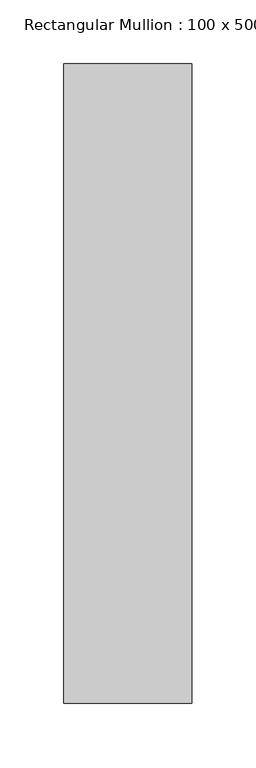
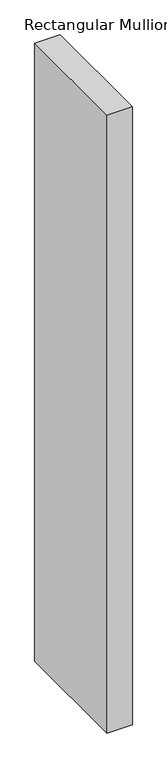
"""IFC4 building model written with IfcOpenShell, lengths in millimetres: member geometry, Rectangular Mullion : 100 x 500mm."""

import ifcopenshell
import ifcopenshell.guid

model = None  # the IFC model being written
_history = None  # IfcOwnerHistory: only IFC2X3 demands one
_inside = {}  # id of a spatial element -> (the spatial element, [elements in it])
_under = {}  # id of a project, library or spatial element -> (it, [spatial elements below it])
_declared = {}  # id of a project -> (the project, [libraries it declares])
_typed = {}  # id of a type object -> (the type object, [elements of that type])
_made_of = {}  # id of a material, layer set ... -> (it, [elements and type objects made of it])


def new_model(schema):
    """Start an empty IFC model of exactly this schema.

    Asked for "IFC4X3", IfcOpenShell would pick the latest addendum, in which some entities
    have other attributes; the version numbers below select the first issue.
    IFC2X3 requires an IfcOwnerHistory on every rooted entity: one is made here for all.
    """
    global model, _history
    if schema == "IFC4X3":
        model = ifcopenshell.file(schema_version=(4, 3, 0, 0))
    else:
        model = ifcopenshell.file(schema=schema)
    _inside.clear()
    _under.clear()
    _declared.clear()
    _typed.clear()
    _made_of.clear()
    _history = None
    if model.schema == "IFC2X3":
        org = make("IfcOrganization", Name="unknown")
        user = make(
            "IfcPersonAndOrganization",
            ThePerson=make("IfcPerson", FamilyName="unknown"),
            TheOrganization=org,
        )
        app = make(
            "IfcApplication",
            ApplicationDeveloper=org,
            Version="unknown",
            ApplicationFullName="unknown",
            ApplicationIdentifier="unknown",
        )
        _history = make(
            "IfcOwnerHistory",
            OwningUser=user,
            OwningApplication=app,
            ChangeAction="ADDED",
            CreationDate=0,
        )
    return model


def make(cls, **values):
    """One entity of the class cls with the attributes given. An attribute that is None is left unset."""
    return model.create_entity(
        cls, **{name: value for name, value in values.items() if value is not None}
    )


def rooted(cls, **values):
    """An entity with a GlobalId (a new one), such as an element, a storey or a relation."""
    return make(cls, GlobalId=ifcopenshell.guid.new(), OwnerHistory=_history, **values)


def si_unit(unit_type, name, prefix=None):
    """IfcSIUnit, for example si_unit("LENGTHUNIT", "METRE", prefix="MILLI")."""
    return make("IfcSIUnit", UnitType=unit_type, Prefix=prefix, Name=name)


def assignment(units):
    """IfcUnitAssignment: the units of a project."""
    return None if units is None else make("IfcUnitAssignment", Units=units)


def point(xyz):
    """IfcCartesianPoint."""
    return None if xyz is None else make("IfcCartesianPoint", Coordinates=xyz)


def direction(xyz):
    """IfcDirection."""
    return None if xyz is None else make("IfcDirection", DirectionRatios=xyz)


def frame(location, z_axis=None, x_axis=None):
    """IfcAxis2Placement3D, a coordinate frame: its origin and axes. An axis left out is left unset."""
    return make(
        "IfcAxis2Placement3D",
        Location=point(location),
        Axis=direction(z_axis),
        RefDirection=direction(x_axis),
    )


def origin():
    """The frame at (0, 0, 0) with its axes left unset."""
    return frame((0.0, 0.0, 0.0))


def place(relative_to, where):
    """IfcLocalPlacement: puts the frame where relative to a parent placement (None: the world)."""
    return make(
        "IfcLocalPlacement", PlacementRelTo=relative_to, RelativePlacement=where
    )


def context(
    kind, dimensions, precision=None, world=None, true_north=None, identifier=None
):
    """IfcGeometricRepresentationContext, for example the 3D "Model" context."""
    return make(
        "IfcGeometricRepresentationContext",
        ContextIdentifier=identifier,
        ContextType=kind,
        CoordinateSpaceDimension=dimensions,
        Precision=precision,
        WorldCoordinateSystem=world,
        TrueNorth=true_north,
    )


def project(units=None, contexts=None):
    """IfcProject with its units and contexts."""
    return rooted(
        "IfcProject",
        Name="project",
        RepresentationContexts=contexts,
        UnitsInContext=assignment(units),
    )


def spatial(cls, under=None, at=None, **own):
    """A site, building, storey or space (cls), placed at a placement, below another one or the project."""
    s = rooted(cls, ObjectPlacement=at, **own)
    if under is not None:
        _under.setdefault(under.id(), (under, []))[1].append(s)
    return s


def polyline(points):
    """IfcPolyline through the points."""
    return make("IfcPolyline", Points=[point(p) for p in points])


def outline(outer, holes=None, kind="AREA"):
    """IfcArbitraryClosedProfileDef: a profile drawn as a closed curve; with holes, ...WithVoids."""
    if holes is None:
        return make("IfcArbitraryClosedProfileDef", ProfileType=kind, OuterCurve=outer)
    return make(
        "IfcArbitraryProfileDefWithVoids",
        ProfileType=kind,
        OuterCurve=outer,
        InnerCurves=holes,
    )


def extrude(swept, where, along, depth):
    """IfcExtrudedAreaSolid: the profile swept, set in the frame where, extruded along a direction by depth."""
    return make(
        "IfcExtrudedAreaSolid",
        SweptArea=swept,
        Position=where,
        ExtrudedDirection=direction(along),
        Depth=depth,
    )


def shape(context_of_items, identifier, shape_type, items):
    """IfcShapeRepresentation: the items that make up one representation, for example the "Body"."""
    return make(
        "IfcShapeRepresentation",
        ContextOfItems=context_of_items,
        RepresentationIdentifier=identifier,
        RepresentationType=shape_type,
        Items=items,
    )


def source(mapping_origin, context_of_items, identifier, shape_type, items):
    """IfcRepresentationMap: a shape defined once, which mapped items show again and again."""
    return make(
        "IfcRepresentationMap",
        MappingOrigin=mapping_origin,
        MappedRepresentation=shape(context_of_items, identifier, shape_type, items),
    )


def transform(
    local_origin,
    x_axis=None,
    y_axis=None,
    z_axis=None,
    scale=None,
    scale2=None,
    scale3=None,
    uniform=True,
):
    """IfcCartesianTransformationOperator3D, or its non-uniform kind. x_axis, y_axis, z_axis: its Axis1, 2, 3."""
    if uniform:
        return make(
            "IfcCartesianTransformationOperator3D",
            Axis1=direction(x_axis),
            Axis2=direction(y_axis),
            LocalOrigin=point(local_origin),
            Scale=scale,
            Axis3=direction(z_axis),
        )
    return make(
        "IfcCartesianTransformationOperator3DnonUniform",
        Axis1=direction(x_axis),
        Axis2=direction(y_axis),
        LocalOrigin=point(local_origin),
        Scale=scale,
        Axis3=direction(z_axis),
        Scale2=scale2,
        Scale3=scale3,
    )


def mapped(mapping_source, mapping_target):
    """IfcMappedItem: shows the shape of a source again, moved by a transform."""
    return make(
        "IfcMappedItem", MappingSource=mapping_source, MappingTarget=mapping_target
    )


def made_of(thing, what):
    """Note that an element or type object is made of a material, layer set ...; save() writes the relation."""
    if what is not None:
        _made_of.setdefault(what.id(), (what, []))[1].append(thing)
    return thing


def element(
    cls,
    number,
    at=None,
    inside=None,
    cuts=None,
    type_object=None,
    material=None,
    context=None,
    identifier="Body",
    shape_type=None,
    held_by="IfcProductDefinitionShape",
    body=None,
    shapes=None,
    **own,
):
    """One element of the class cls, such as IfcWall. Its Tag is "e" and its number.

    at: its placement. inside: the storey or other place that contains it. cuts: it is an
    opening in that element (IfcRelVoidsElement). A single representation is given by context,
    identifier, shape_type and body (its items); several are given by shapes. held_by: the class
    of the entity that holds the representations. save() writes the other relations.
    """
    e = rooted(cls, Tag="e%d" % number, ObjectPlacement=at, **own)
    if body is not None:
        shapes = [shape(context, identifier, shape_type, body)]
    if shapes is not None:
        e.Representation = make(held_by, Representations=shapes)
    if inside is not None:
        _inside.setdefault(inside.id(), (inside, []))[1].append(e)
    if cuts is not None:
        rooted(
            "IfcRelVoidsElement", RelatingBuildingElement=cuts, RelatedOpeningElement=e
        )
    if type_object is not None:
        _typed.setdefault(type_object.id(), (type_object, []))[1].append(e)
    return made_of(e, material)


def aggregate(whole, parts):
    """IfcRelAggregates: a whole, such as a stair, and the parts it consists of."""
    return rooted("IfcRelAggregates", RelatingObject=whole, RelatedObjects=parts)


def save(model, path):
    """Write the relations noted so far, then the file.

    IfcRelAggregates (storeys below a building ...), IfcRelContainedInSpatialStructure (elements
    in a storey), IfcRelDefinesByType, IfcRelAssociatesMaterial and IfcRelDeclares: one each for
    every whole, place, type object, material and project.
    """
    for whole, parts in _under.values():
        aggregate(whole, parts)
    for where, things in _inside.values():
        rooted(
            "IfcRelContainedInSpatialStructure",
            RelatedElements=things,
            RelatingStructure=where,
        )
    for kind, things in _typed.values():
        rooted("IfcRelDefinesByType", RelatedObjects=things, RelatingType=kind)
    for what, things in _made_of.values():
        rooted("IfcRelAssociatesMaterial", RelatedObjects=things, RelatingMaterial=what)
    for by, libraries in _declared.values():
        rooted("IfcRelDeclares", RelatingContext=by, RelatedDefinitions=libraries)
    model.write(path)


def rectangular_mullion_100_x_500mm_26d26932(model_context):
    return source(origin(), model_context, "Body", "SweptSolid", [
        extrude(outline(polyline([(0.0, 125.0), (0.0, -375.0), (-100.0, -375.0), (-100.0, 125.0), (0.0, 125.0)])), frame((0.0, 0.0, -2600.0), z_axis=(0.0, 0.0, 1.0), x_axis=(1.0, 0.0, 0.0)), (0.0, 0.0, 1.0), 2600.0),
    ])


if __name__ == "__main__":
    model = new_model("IFC4")
    model_context = context("Model", 3, world=origin())
    ifc_project = project(units=[si_unit("LENGTHUNIT", "METRE", prefix="MILLI")], contexts=[model_context])
    site = spatial("IfcSite", under=ifc_project)
    building = spatial("IfcBuilding", under=site)
    placement = place(None, origin())
    rectangular_mullion_100_x_500mm_shape = rectangular_mullion_100_x_500mm_26d26932(model_context)
    element("IfcMember", 1, ObjectType="Rectangular Mullion : 100 x 500mm", at=placement, inside=building, context=model_context, shape_type="MappedRepresentation", body=[
        mapped(rectangular_mullion_100_x_500mm_shape, transform((0.0, 0.0, 0.0), x_axis=(1.0, 0.0, 0.0), y_axis=(0.0, 1.0, 0.0), z_axis=(0.0, 0.0, 1.0))),
    ])
    save(model, "model.ifc")
